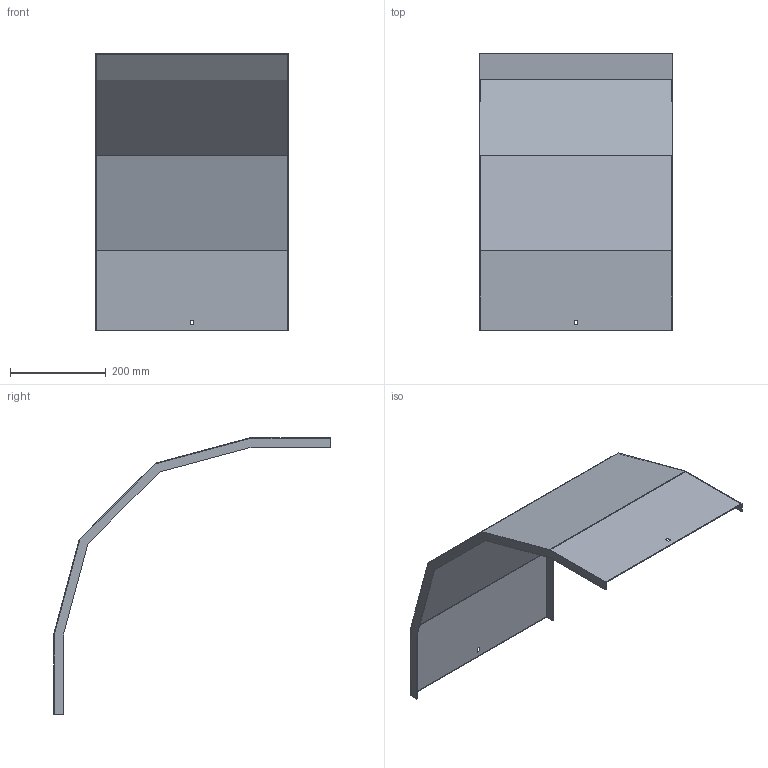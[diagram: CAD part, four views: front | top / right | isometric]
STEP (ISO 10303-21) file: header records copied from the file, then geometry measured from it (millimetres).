
FILE_DESCRIPTION (( 'STEP AP214' ), '1' );
FILE_NAME ('A2_33N3J400.step', '2025-02-21T10:45:33', ( '' ), ( '' ), 'SwSTEP 2.0', 'SolidWorks 2023', '' );
FILE_SCHEMA (( 'AUTOMOTIVE_DESIGN' ));
Length unit declared in the file: millimetre
Products named in the file (1): A2_33N3J400
Bounding box: 403 x 579.05 x 579.05 mm (x, y, z)
Volume: 639645.1 mm3; surface area: 857096.8 mm2
Topology: 1 solids, 1 shells, 34 faces, 96 edges, 64 vertices
Faces by surface type: plane 34
Entity records: 1111 total; most frequent: CARTESIAN_POINT 195, ORIENTED_EDGE 192, DIRECTION 166, LINE 96, VECTOR 96, EDGE_CURVE 96, VERTEX_POINT 64, EDGE_LOOP 38
